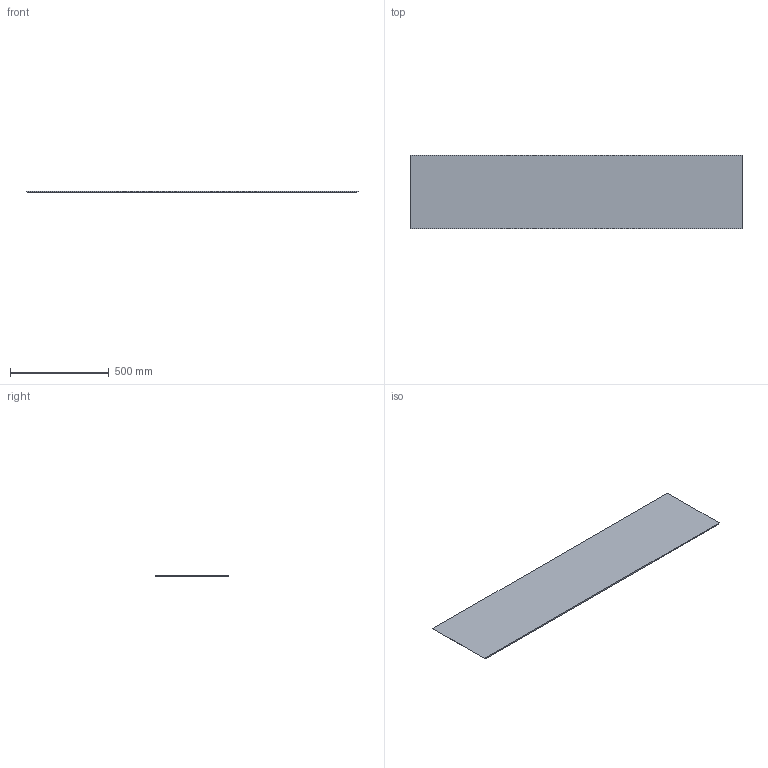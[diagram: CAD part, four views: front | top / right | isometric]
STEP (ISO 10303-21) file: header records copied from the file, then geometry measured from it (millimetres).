
FILE_DESCRIPTION(('Open CASCADE Model'),'2;1');
FILE_NAME('Open CASCADE Shape Model','2026-10-15T15:10:04',('Author'),( 'Open CASCADE'),'Open CASCADE STEP processor 8.0','Open CASCADE 8.0' ,'Unknown');
FILE_SCHEMA(('AUTOMOTIVE_DESIGN { 1 0 10303 214 1 1 1 1 }'));
Length unit declared in the file: millimetre
Products named in the file (1): TOL_PANEL_CUERPO_DN150_6mm_P05 40
Bounding box: 1682 x 370.15 x 6 mm (x, y, z)
Volume: 3722274.1 mm3; surface area: 1267151.8 mm2
Topology: 1 solids, 1 shells, 6 faces, 12 edges, 8 vertices
Faces by surface type: plane 6
Entity records: 310 total; most frequent: CARTESIAN_POINT 63, DIRECTION 38, ORIENTED_EDGE 24, LINE 24, VECTOR 24, PCURVE 24, DEFINITIONAL_REPRESENTATION 24, EDGE_CURVE 12
